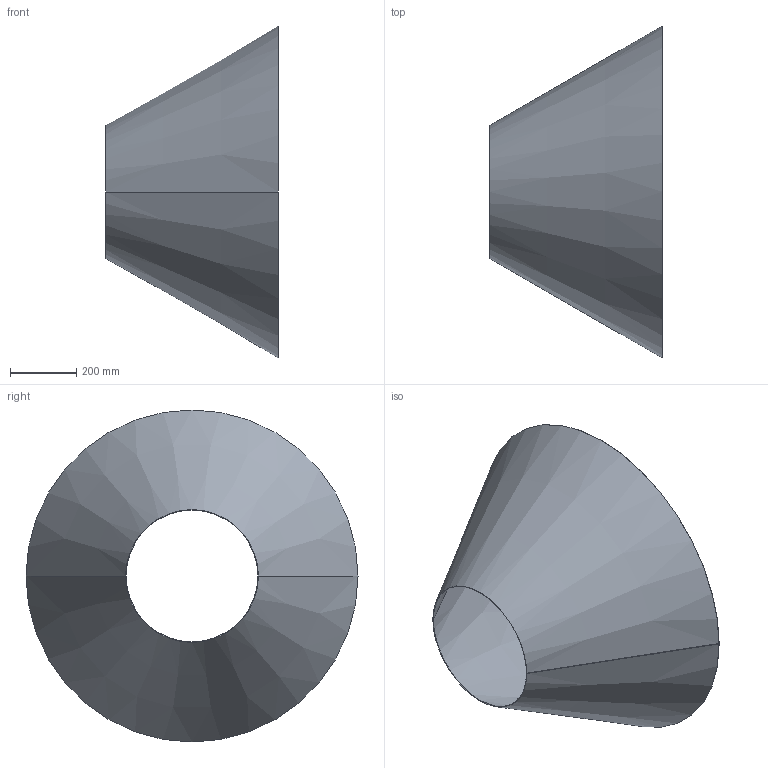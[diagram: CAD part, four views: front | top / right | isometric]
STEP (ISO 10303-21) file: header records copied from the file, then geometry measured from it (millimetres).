
FILE_DESCRIPTION((''),'2;1');
FILE_NAME('E:\Bauteil7.stp','2003-09-24T11:31:55',('lang'),(''),'Autodesk Inventor 7','Autodesk Inventor 7','');
FILE_SCHEMA(('AUTOMOTIVE_DESIGN { 1 0 10303 214 1 1 1 1 }'));
Length unit declared in the file: millimetre
Products named in the file (1): Bauteil7
Bounding box: 521 x 1000 x 1000 mm (x, y, z)
Volume: 2633868.3 mm3; surface area: 2645044.3 mm2
Topology: 1 solids, 1 shells, 10 faces, 20 edges, 12 vertices
Faces by surface type: cone 8, plane 2
Entity records: 283 total; most frequent: DIRECTION 50, CARTESIAN_POINT 43, ORIENTED_EDGE 40, EDGE_CURVE 20, AXIS2_PLACEMENT_3D 19, VERTEX_POINT 12, VECTOR 12, LINE 12
